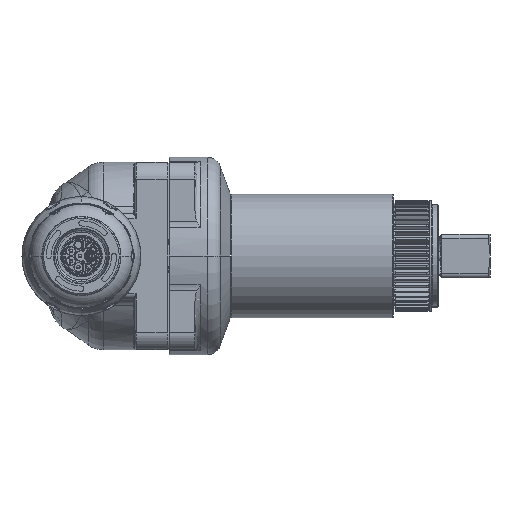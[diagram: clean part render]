
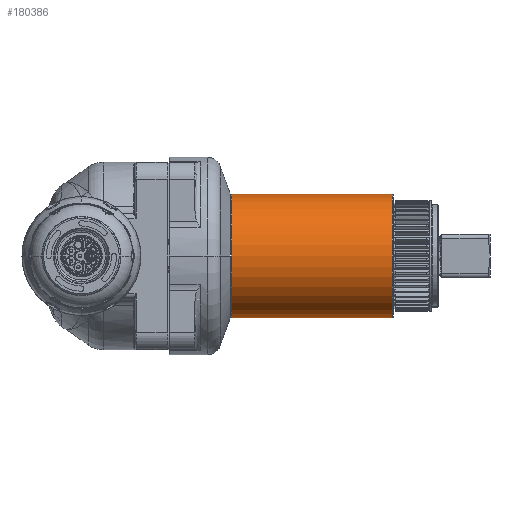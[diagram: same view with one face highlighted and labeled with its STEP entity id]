
A CAD part, left-side view. The second image highlights one B-rep face of the part: STEP entity #180386.
In plain terms, the highlighted cylindrical face has radius 36 mm (diameter 72 mm), a partial arc.
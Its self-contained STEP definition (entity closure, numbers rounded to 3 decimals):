
#179490=DIRECTION('',(0.,-1.,0.));
#179491=VECTOR('',#179490,93.1);
#179492=CARTESIAN_POINT('',(228.1,-87.45,-36.));
#179493=LINE('',#179492,#179491);
#179494=DIRECTION('',(0.,-1.,0.));
#179495=VECTOR('',#179494,93.1);
#179496=CARTESIAN_POINT('',(228.1,-87.45,36.));
#179497=LINE('',#179496,#179495);
#179508=CARTESIAN_POINT('',(228.1,-87.45,0.));
#179509=DIRECTION('',(0.,1.,0.));
#179510=DIRECTION('',(0.,0.,-1.));
#179511=AXIS2_PLACEMENT_3D('',#179508,#179509,#179510);
#179528=CARTESIAN_POINT('',(228.1,-180.55,0.));
#179529=DIRECTION('',(0.,-1.,0.));
#179530=DIRECTION('',(0.,0.,1.));
#179531=AXIS2_PLACEMENT_3D('',#179528,#179529,#179530);
#179890=CARTESIAN_POINT('',(228.1,-180.55,-36.));
#179892=VERTEX_POINT('',#179890);
#179894=CARTESIAN_POINT('',(228.1,-180.55,36.));
#179896=VERTEX_POINT('',#179894);
#179897=CARTESIAN_POINT('',(228.1,-87.45,36.));
#179898=VERTEX_POINT('',#179897);
#179899=CARTESIAN_POINT('',(228.1,-87.45,-36.));
#179900=VERTEX_POINT('',#179899);
#180374=CARTESIAN_POINT('',(228.1,-86.45,0.));
#180375=DIRECTION('',(0.,-1.,0.));
#180376=DIRECTION('',(0.,0.,1.));
#180377=AXIS2_PLACEMENT_3D('',#180374,#180375,#180376);
#180378=CYLINDRICAL_SURFACE('',#180377,36.);
#180379=ORIENTED_EDGE('',*,*,#180365,.T.);
#180380=ORIENTED_EDGE('',*,*,#180340,.T.);
#180382=ORIENTED_EDGE('',*,*,#180381,.T.);
#180383=ORIENTED_EDGE('',*,*,#180337,.F.);
#180384=EDGE_LOOP('',(#180379,#180380,#180382,#180383));
#180385=FACE_OUTER_BOUND('',#180384,.F.);
#180386=ADVANCED_FACE('',(#180385),#180378,.T.);
#179512=CIRCLE('',#179511,36.);
#179532=CIRCLE('',#179531,36.);
#180337=EDGE_CURVE('',#179900,#179892,#179493,.T.);
#180340=EDGE_CURVE('',#179898,#179896,#179497,.T.);
#180365=EDGE_CURVE('',#179900,#179898,#179512,.T.);
#180381=EDGE_CURVE('',#179896,#179892,#179532,.T.);
